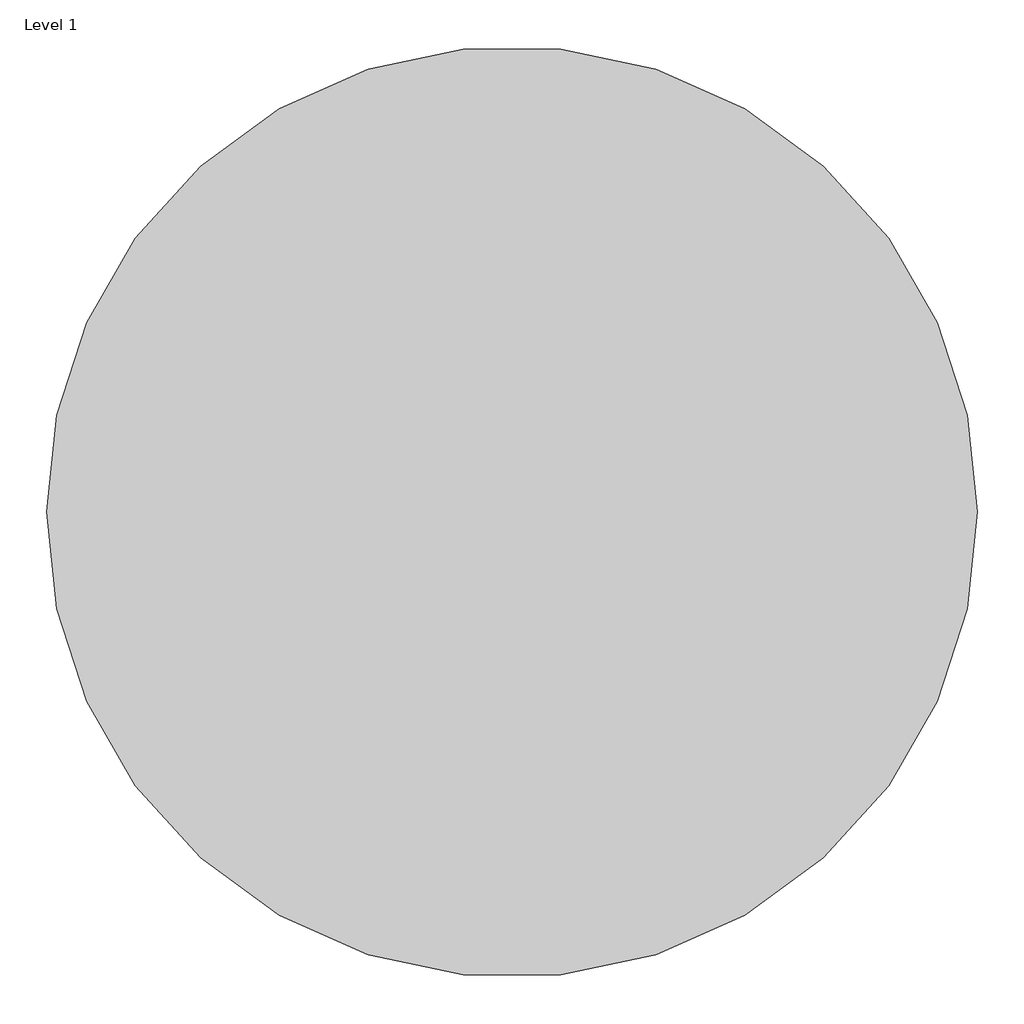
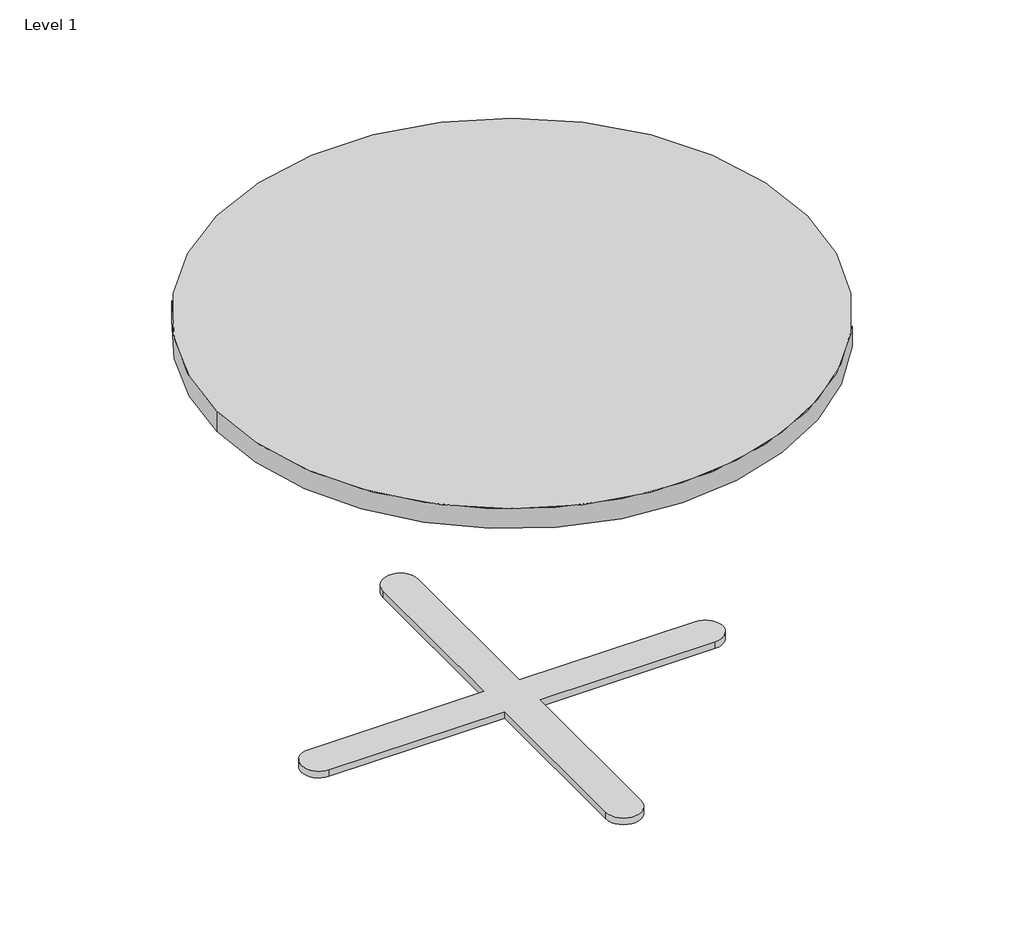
# One storey: 2 proxies.
"""IFC4 building model written with IfcOpenShell, lengths in millimetres."""

import ifcopenshell
import ifcopenshell.guid

model = None  # the IFC model being written
_history = None  # IfcOwnerHistory: only IFC2X3 demands one
_inside = {}  # id of a spatial element -> (the spatial element, [elements in it])
_under = {}  # id of a project, library or spatial element -> (it, [spatial elements below it])
_declared = {}  # id of a project -> (the project, [libraries it declares])
_typed = {}  # id of a type object -> (the type object, [elements of that type])
_made_of = {}  # id of a material, layer set ... -> (it, [elements and type objects made of it])


def new_model(schema):
    """Start an empty IFC model of exactly this schema.

    Asked for "IFC4X3", IfcOpenShell would pick the latest addendum, in which some entities
    have other attributes; the version numbers below select the first issue.
    IFC2X3 requires an IfcOwnerHistory on every rooted entity: one is made here for all.
    """
    global model, _history
    if schema == "IFC4X3":
        model = ifcopenshell.file(schema_version=(4, 3, 0, 0))
    else:
        model = ifcopenshell.file(schema=schema)
    _inside.clear()
    _under.clear()
    _declared.clear()
    _typed.clear()
    _made_of.clear()
    _history = None
    if model.schema == "IFC2X3":
        org = make("IfcOrganization", Name="unknown")
        user = make(
            "IfcPersonAndOrganization",
            ThePerson=make("IfcPerson", FamilyName="unknown"),
            TheOrganization=org,
        )
        app = make(
            "IfcApplication",
            ApplicationDeveloper=org,
            Version="unknown",
            ApplicationFullName="unknown",
            ApplicationIdentifier="unknown",
        )
        _history = make(
            "IfcOwnerHistory",
            OwningUser=user,
            OwningApplication=app,
            ChangeAction="ADDED",
            CreationDate=0,
        )
    return model


def make(cls, **values):
    """One entity of the class cls with the attributes given. An attribute that is None is left unset."""
    return model.create_entity(
        cls, **{name: value for name, value in values.items() if value is not None}
    )


def rooted(cls, **values):
    """An entity with a GlobalId (a new one), such as an element, a storey or a relation."""
    return make(cls, GlobalId=ifcopenshell.guid.new(), OwnerHistory=_history, **values)


def si_unit(unit_type, name, prefix=None):
    """IfcSIUnit, for example si_unit("LENGTHUNIT", "METRE", prefix="MILLI")."""
    return make("IfcSIUnit", UnitType=unit_type, Prefix=prefix, Name=name)


def assignment(units):
    """IfcUnitAssignment: the units of a project."""
    return None if units is None else make("IfcUnitAssignment", Units=units)


def point(xyz):
    """IfcCartesianPoint."""
    return None if xyz is None else make("IfcCartesianPoint", Coordinates=xyz)


def direction(xyz):
    """IfcDirection."""
    return None if xyz is None else make("IfcDirection", DirectionRatios=xyz)


def frame(location, z_axis=None, x_axis=None):
    """IfcAxis2Placement3D, a coordinate frame: its origin and axes. An axis left out is left unset."""
    return make(
        "IfcAxis2Placement3D",
        Location=point(location),
        Axis=direction(z_axis),
        RefDirection=direction(x_axis),
    )


def frame_2d(location, x_axis=None):
    """IfcAxis2Placement2D, a coordinate frame in the plane: its origin and x axis."""
    return make(
        "IfcAxis2Placement2D", Location=point(location), RefDirection=direction(x_axis)
    )


def origin():
    """The frame at (0, 0, 0) with its axes left unset."""
    return frame((0.0, 0.0, 0.0))


def origin_2d():
    """The frame at (0, 0) in the plane with its x axis left unset."""
    return frame_2d((0.0, 0.0))


def place(relative_to, where):
    """IfcLocalPlacement: puts the frame where relative to a parent placement (None: the world)."""
    return make(
        "IfcLocalPlacement", PlacementRelTo=relative_to, RelativePlacement=where
    )


def context(
    kind, dimensions, precision=None, world=None, true_north=None, identifier=None
):
    """IfcGeometricRepresentationContext, for example the 3D "Model" context."""
    return make(
        "IfcGeometricRepresentationContext",
        ContextIdentifier=identifier,
        ContextType=kind,
        CoordinateSpaceDimension=dimensions,
        Precision=precision,
        WorldCoordinateSystem=world,
        TrueNorth=true_north,
    )


def project(units=None, contexts=None):
    """IfcProject with its units and contexts."""
    return rooted(
        "IfcProject",
        Name="project",
        RepresentationContexts=contexts,
        UnitsInContext=assignment(units),
    )


def spatial(cls, under=None, at=None, **own):
    """A site, building, storey or space (cls), placed at a placement, below another one or the project."""
    s = rooted(cls, ObjectPlacement=at, **own)
    if under is not None:
        _under.setdefault(under.id(), (under, []))[1].append(s)
    return s


def polyline(points):
    """IfcPolyline through the points."""
    return make("IfcPolyline", Points=[point(p) for p in points])


def circle_curve(where, radius):
    """IfcCircle in the frame where."""
    return make("IfcCircle", Position=where, Radius=radius)


def trimmed(basis, trim1, trim2, sense, master):
    """IfcTrimmedCurve: the piece of a basis curve between two trims."""
    return make(
        "IfcTrimmedCurve",
        BasisCurve=basis,
        Trim1=trim1,
        Trim2=trim2,
        SenseAgreement=sense,
        MasterRepresentation=master,
    )


def segment(curve, same_sense, transition):
    """IfcCompositeCurveSegment."""
    return make(
        "IfcCompositeCurveSegment",
        Transition=transition,
        SameSense=same_sense,
        ParentCurve=curve,
    )


def composite_curve(segments, self_intersect=None):
    """IfcCompositeCurve: segments joined end to end."""
    return make("IfcCompositeCurve", Segments=segments, SelfIntersect=self_intersect)


def outline(outer, holes=None, kind="AREA"):
    """IfcArbitraryClosedProfileDef: a profile drawn as a closed curve; with holes, ...WithVoids."""
    if holes is None:
        return make("IfcArbitraryClosedProfileDef", ProfileType=kind, OuterCurve=outer)
    return make(
        "IfcArbitraryProfileDefWithVoids",
        ProfileType=kind,
        OuterCurve=outer,
        InnerCurves=holes,
    )


def extrude(swept, where, along, depth):
    """IfcExtrudedAreaSolid: the profile swept, set in the frame where, extruded along a direction by depth."""
    return make(
        "IfcExtrudedAreaSolid",
        SweptArea=swept,
        Position=where,
        ExtrudedDirection=direction(along),
        Depth=depth,
    )


def faces_of(points, faces, orient=None, outer=None):
    """IfcFace entities. A face is a list of loops; a loop is a list of indices into points, from 0.

    orient and outer hold one flag for each loop. By default every Orientation is true, the
    first loop of a face is its IfcFaceOuterBound and the others are IfcFaceBound.
    """
    made = []
    for i, loops in enumerate(faces):
        bounds = []
        for j, loop in enumerate(loops):
            is_outer = j == 0 if outer is None else outer[i][j]
            bounds.append(
                make(
                    "IfcFaceOuterBound" if is_outer else "IfcFaceBound",
                    Bound=make("IfcPolyLoop", Polygon=[points[k] for k in loop]),
                    Orientation=True if orient is None else orient[i][j],
                )
            )
        made.append(make("IfcFace", Bounds=bounds))
    return made


def faceted_brep(points, faces, orient=None, outer=None, voids=None):
    """IfcFacetedBrep: a solid bounded by flat faces; with voids (closed shells), ...WithVoids."""
    shared = [point(p) for p in points]
    hull = make("IfcClosedShell", CfsFaces=faces_of(shared, faces, orient, outer))
    if voids is None:
        return make("IfcFacetedBrep", Outer=hull)
    return make(
        "IfcFacetedBrepWithVoids",
        Outer=hull,
        Voids=[
            make(cls, CfsFaces=faces_of(shared, fs, o, b)) for cls, fs, o, b in voids
        ],
    )


def shape(context_of_items, identifier, shape_type, items):
    """IfcShapeRepresentation: the items that make up one representation, for example the "Body"."""
    return make(
        "IfcShapeRepresentation",
        ContextOfItems=context_of_items,
        RepresentationIdentifier=identifier,
        RepresentationType=shape_type,
        Items=items,
    )


def source(mapping_origin, context_of_items, identifier, shape_type, items):
    """IfcRepresentationMap: a shape defined once, which mapped items show again and again."""
    return make(
        "IfcRepresentationMap",
        MappingOrigin=mapping_origin,
        MappedRepresentation=shape(context_of_items, identifier, shape_type, items),
    )


def transform(
    local_origin,
    x_axis=None,
    y_axis=None,
    z_axis=None,
    scale=None,
    scale2=None,
    scale3=None,
    uniform=True,
):
    """IfcCartesianTransformationOperator3D, or its non-uniform kind. x_axis, y_axis, z_axis: its Axis1, 2, 3."""
    if uniform:
        return make(
            "IfcCartesianTransformationOperator3D",
            Axis1=direction(x_axis),
            Axis2=direction(y_axis),
            LocalOrigin=point(local_origin),
            Scale=scale,
            Axis3=direction(z_axis),
        )
    return make(
        "IfcCartesianTransformationOperator3DnonUniform",
        Axis1=direction(x_axis),
        Axis2=direction(y_axis),
        LocalOrigin=point(local_origin),
        Scale=scale,
        Axis3=direction(z_axis),
        Scale2=scale2,
        Scale3=scale3,
    )


def mapped(mapping_source, mapping_target):
    """IfcMappedItem: shows the shape of a source again, moved by a transform."""
    return make(
        "IfcMappedItem", MappingSource=mapping_source, MappingTarget=mapping_target
    )


def made_of(thing, what):
    """Note that an element or type object is made of a material, layer set ...; save() writes the relation."""
    if what is not None:
        _made_of.setdefault(what.id(), (what, []))[1].append(thing)
    return thing


def element(
    cls,
    number,
    at=None,
    inside=None,
    cuts=None,
    type_object=None,
    material=None,
    context=None,
    identifier="Body",
    shape_type=None,
    held_by="IfcProductDefinitionShape",
    body=None,
    shapes=None,
    **own,
):
    """One element of the class cls, such as IfcWall. Its Tag is "e" and its number.

    at: its placement. inside: the storey or other place that contains it. cuts: it is an
    opening in that element (IfcRelVoidsElement). A single representation is given by context,
    identifier, shape_type and body (its items); several are given by shapes. held_by: the class
    of the entity that holds the representations. save() writes the other relations.
    """
    e = rooted(cls, Tag="e%d" % number, ObjectPlacement=at, **own)
    if body is not None:
        shapes = [shape(context, identifier, shape_type, body)]
    if shapes is not None:
        e.Representation = make(held_by, Representations=shapes)
    if inside is not None:
        _inside.setdefault(inside.id(), (inside, []))[1].append(e)
    if cuts is not None:
        rooted(
            "IfcRelVoidsElement", RelatingBuildingElement=cuts, RelatedOpeningElement=e
        )
    if type_object is not None:
        _typed.setdefault(type_object.id(), (type_object, []))[1].append(e)
    return made_of(e, material)


def aggregate(whole, parts):
    """IfcRelAggregates: a whole, such as a stair, and the parts it consists of."""
    return rooted("IfcRelAggregates", RelatingObject=whole, RelatedObjects=parts)


def save(model, path):
    """Write the relations noted so far, then the file.

    IfcRelAggregates (storeys below a building ...), IfcRelContainedInSpatialStructure (elements
    in a storey), IfcRelDefinesByType, IfcRelAssociatesMaterial and IfcRelDeclares: one each for
    every whole, place, type object, material and project.
    """
    for whole, parts in _under.values():
        aggregate(whole, parts)
    for where, things in _inside.values():
        rooted(
            "IfcRelContainedInSpatialStructure",
            RelatedElements=things,
            RelatingStructure=where,
        )
    for kind, things in _typed.values():
        rooted("IfcRelDefinesByType", RelatedObjects=things, RelatingType=kind)
    for what, things in _made_of.values():
        rooted("IfcRelAssociatesMaterial", RelatedObjects=things, RelatingMaterial=what)
    for by, libraries in _declared.values():
        rooted("IfcRelDeclares", RelatingContext=by, RelatedDefinitions=libraries)
    model.write(path)


def generic_models_a0847e05(model_context):
    return source(origin(), model_context, "Body", "SolidModel", [
        faceted_brep([(25.4, 666.75, 25.4), (-25.4, 666.75, 25.4), (-25.4, 666.75, -25.4), (25.4, 666.75, -25.4), (-138.1125, 692.15, 138.1125), (138.1125, 692.15, 138.1125), (138.1125, 692.15, -138.1125), (-138.1125, 692.15, -138.1125), (-100.7618, 689.102, 100.7618), (100.7618, 689.102, 100.7618), (-100.7618, 689.102, -100.7618), (-138.1125, 689.102, -138.1125), (138.1125, 689.102, -138.1125), (138.1125, 689.102, 138.1125), (-138.1125, 689.102, 138.1125), (100.7618, 689.102, -100.7618)], [[[0, 1, 2, 3]], [[4, 5, 6, 7]], [[8, 1, 0, 9]], [[10, 2, 1, 8]], [[11, 12, 13, 14], [9, 15, 10, 8]], [[15, 3, 2, 10]], [[9, 0, 3, 15]], [[13, 12, 6, 5]], [[12, 11, 7, 6]], [[11, 14, 4, 7]], [[14, 13, 5, 4]]]),
        extrude(outline(composite_curve([segment(trimmed(circle_curve(frame_2d((349.25, 0.0)), 31.75), [point((349.25, 31.75))], [point((349.25, -31.75))], False, "CARTESIAN"), True, "CONTINUOUS"), segment(polyline([(349.25, -31.75), (31.75, -31.75), (31.75, -349.25)]), True, "CONTINUOUS"), segment(trimmed(circle_curve(frame_2d((0.0, -349.25)), 31.75), [point((31.75, -349.25))], [point((-31.75, -349.25))], False, "CARTESIAN"), True, "CONTINUOUS"), segment(polyline([(-31.75, -349.25), (-31.75, -31.75), (-349.25, -31.75)]), True, "CONTINUOUS"), segment(trimmed(circle_curve(frame_2d((-349.25, 0.0)), 31.75), [point((-349.25, -31.75))], [point((-349.25, 31.75))], False, "CARTESIAN"), True, "CONTINUOUS"), segment(polyline([(-349.25, 31.75), (-31.75, 31.75), (-31.75, 349.25)]), True, "CONTINUOUS"), segment(trimmed(circle_curve(frame_2d((0.0, 349.25)), 31.75), [point((-31.75, 349.25))], [point((31.75, 349.25))], False, "CARTESIAN"), True, "CONTINUOUS"), segment(polyline([(31.75, 349.25), (31.75, 31.75), (349.25, 31.75)]), True, "CONTINUOUS")], self_intersect=False)), frame((0.0, -12.7, 0.0), z_axis=(0.0, 1.0, 0.0), x_axis=(0.0, 0.0, 1.0)), (0.0, 0.0, 1.0), 12.7),
    ])


def generic_models_88f99271(model_context):
    return source(origin(), model_context, "Body", "SweptSolid", [
        extrude(outline(composite_curve([segment(trimmed(circle_curve(origin_2d(), 533.4), [point((0.0, 533.4))], [point((0.0, -533.4))], False, "CARTESIAN"), True, "CONTINUOUS"), segment(trimmed(circle_curve(origin_2d(), 533.4), [point((0.0, -533.4))], [point((0.0, 533.4))], False, "CARTESIAN"), True, "CONTINUOUS")], self_intersect=False)), frame((0.0, 0.0, 0.0), z_axis=(0.0, 1.0, 0.0), x_axis=(0.0, 0.0, 1.0)), (0.0, 0.0, 1.0), 38.1),
    ])


model = new_model("IFC4")

# Units and contexts
model_context = context("Model", 3, world=origin())
ifc_project = project(units=[si_unit("LENGTHUNIT", "METRE", prefix="MILLI")], contexts=[model_context])

# Site, building, storey
site = spatial("IfcSite", under=ifc_project)
building = spatial("IfcBuilding", under=site)
storey = spatial("IfcBuildingStorey", under=building, Name="Level 1", Elevation=0.0)

# Proxies
placement = place(None, origin())
generic_models_shape = generic_models_a0847e05(model_context)
element("IfcBuildingElementProxy", 1, Name="WCI^DUNHILL_X BASE-42sq TOP", ObjectType="WCI^DUNHILL_X BASE-42sq TOP", at=placement, inside=storey, context=model_context, shape_type="MappedRepresentation", body=[
    mapped(generic_models_shape, transform((265.0058542, 0.0, -393.2098843), x_axis=(1.0, 0.0, 0.0), y_axis=(0.0, 0.0, 1.0), z_axis=(0.0, -1.0, 0.0))),
])
generic_models_2_shape = generic_models_88f99271(model_context)
element("IfcBuildingElementProxy", 2, Name="FOUNDATION^TABLE 2_42 ROUND-WORKSURFACE", ObjectType="FOUNDATION^TABLE 2_42 ROUND-WORKSURFACE", at=placement, inside=storey, context=model_context, shape_type="MappedRepresentation", body=[
    mapped(generic_models_2_shape, transform((265.0058542, 0.0, 298.9401157), x_axis=(1.0, 0.0, 0.0), y_axis=(0.0, 0.0, 1.0), z_axis=(0.0, -1.0, 0.0))),
])

save(model, "model.ifc")
